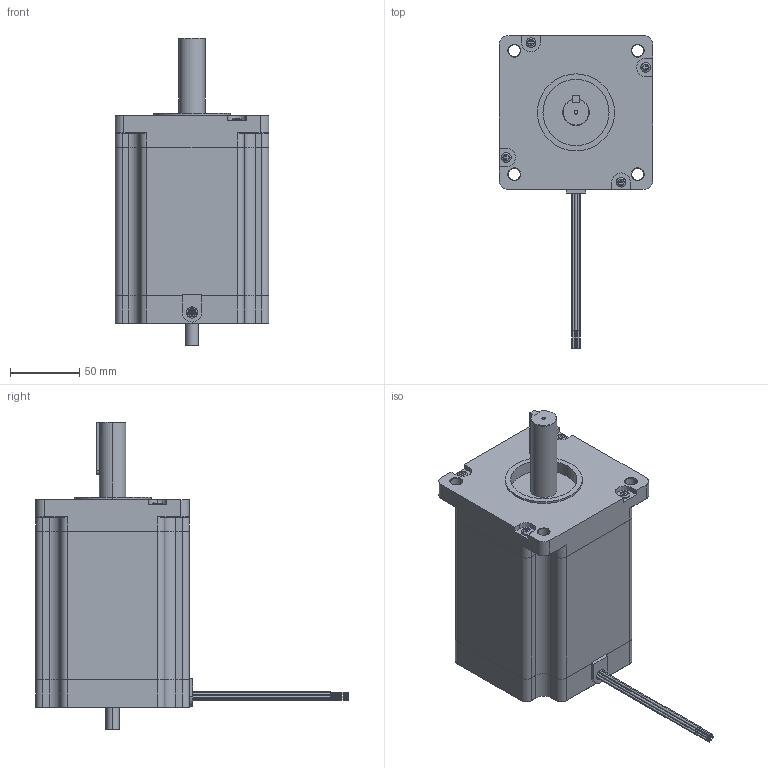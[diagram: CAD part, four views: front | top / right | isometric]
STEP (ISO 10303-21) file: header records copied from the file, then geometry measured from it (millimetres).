
FILE_DESCRIPTION (( 'STEP AP214' ), '1' );
FILE_NAME ('42Y202D-LW8.STEP', '2010-06-11T15:39:47', ( 'Tim Raines' ), ( 'Anaheim Automation' ), 'SwSTEP 2.0', 'SolidWorks 2010', '' );
FILE_SCHEMA (( 'AUTOMOTIVE_DESIGN' ));
Length unit declared in the file: inch
Products named in the file (1): 42Y202D-LW8
Bounding box: 110.62 x 224.92 x 221.36 mm (x, y, z)
Volume: 1660169.5 mm3; surface area: 100212.7 mm2
Topology: 1 solids, 1 shells, 372 faces, 933 edges, 587 vertices
Faces by surface type: plane 178, cylinder 125, cone 61, torus 8
Entity records: 16030 total; most frequent: CARTESIAN_POINT 2195, DIRECTION 1918, ORIENTED_EDGE 1842, EDGE_CURVE 921, AXIS2_PLACEMENT_3D 694, VERTEX_POINT 587, VECTOR 530, LINE 530
